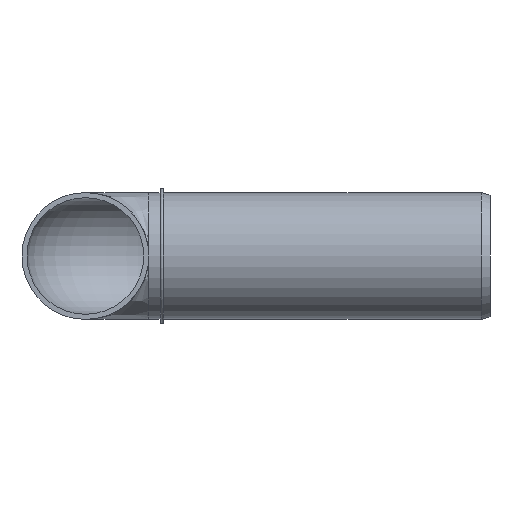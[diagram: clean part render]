
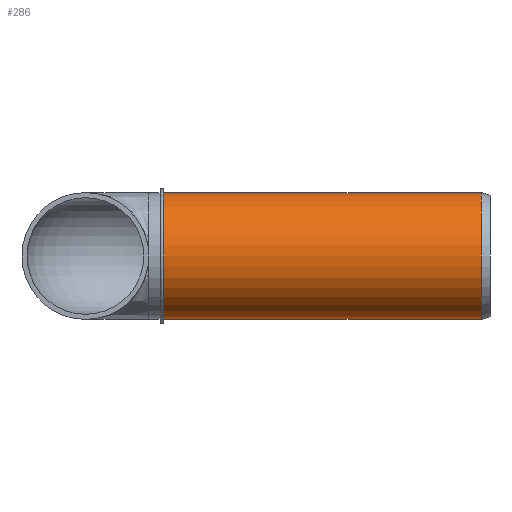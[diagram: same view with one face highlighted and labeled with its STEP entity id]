
A CAD part, left-side view. The second image highlights one B-rep face of the part: STEP entity #286.
In plain terms, the highlighted cylindrical face has radius 25.075 mm (diameter 50.15 mm), a full revolution.
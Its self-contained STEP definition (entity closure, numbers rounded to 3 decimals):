
#28=FACE_BOUND($,#77,.T.);
#45=CYLINDRICAL_SURFACE($,#318,25.075);
#54=FACE_OUTER_BOUND($,#76,.T.);
#76=EDGE_LOOP($,(#209));
#77=EDGE_LOOP($,(#210));
#124=CIRCLE($,#319,25.075);
#125=CIRCLE($,#320,25.075);
#149=VERTEX_POINT($,#618);
#150=VERTEX_POINT($,#620);
#176=EDGE_CURVE($,#149,#149,#124,.T.);
#177=EDGE_CURVE($,#150,#150,#125,.T.);
#209=ORIENTED_EDGE($,*,*,#176,.T.);
#210=ORIENTED_EDGE($,*,*,#177,.T.);
#286=ADVANCED_FACE($,(#54,#28),#45,.T.);
#318=AXIS2_PLACEMENT_3D($,#617,#372,#373);
#319=AXIS2_PLACEMENT_3D($,#619,#374,#375);
#320=AXIS2_PLACEMENT_3D($,#621,#376,#377);
#372=DIRECTION('center_axis',(0.,1.,0.));
#373=DIRECTION('ref_axis',(1.,0.,0.));
#374=DIRECTION('center_axis',(0.,-1.,0.));
#375=DIRECTION('ref_axis',(1.,0.,0.));
#376=DIRECTION('center_axis',(0.,1.,0.));
#377=DIRECTION('ref_axis',(1.,0.,0.));
#617=CARTESIAN_POINT('Origin',(0.,0.,0.));
#618=CARTESIAN_POINT('',(0.,129.005,25.075));
#619=CARTESIAN_POINT('Origin',(0.,129.005,0.));
#620=CARTESIAN_POINT('',(-25.075,3.5,0.));
#621=CARTESIAN_POINT('Origin',(0.,3.5,0.));
